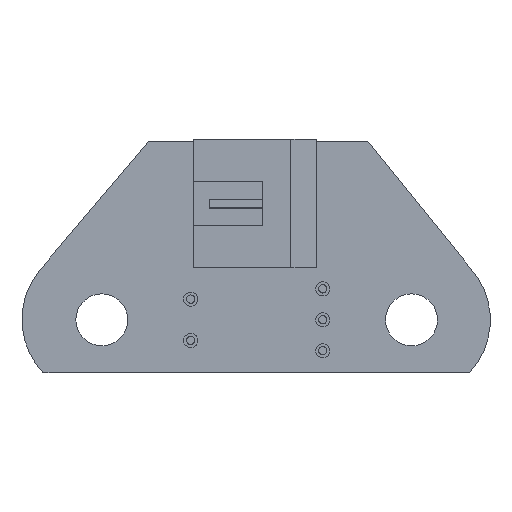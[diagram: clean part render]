
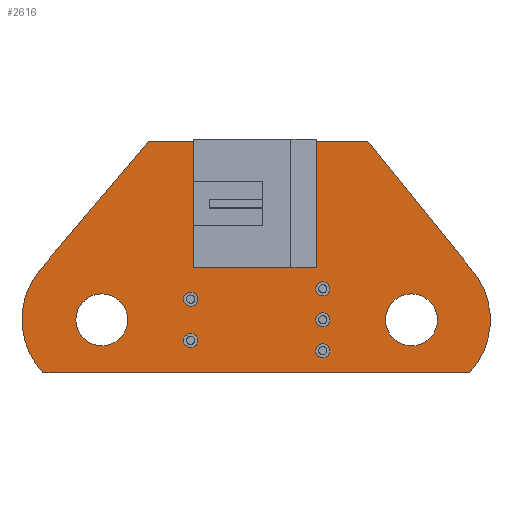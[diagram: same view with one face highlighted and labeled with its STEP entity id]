
A CAD part, top view. The second image highlights one B-rep face of the part: STEP entity #2616.
In plain terms, the highlighted planar face has unit normal (0, 0, 1).
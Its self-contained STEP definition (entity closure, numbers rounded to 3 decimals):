
#67=FACE_BOUND('',#328,.T.);
#68=FACE_BOUND('',#329,.T.);
#69=FACE_BOUND('',#330,.T.);
#70=FACE_BOUND('',#331,.T.);
#71=FACE_BOUND('',#332,.T.);
#72=FACE_BOUND('',#333,.T.);
#73=FACE_BOUND('',#334,.T.);
#74=FACE_BOUND('',#335,.T.);
#75=FACE_BOUND('',#336,.T.);
#76=FACE_BOUND('',#337,.T.);
#85=CIRCLE('',#2811,4.776);
#97=CIRCLE('',#2825,4.772);
#98=CIRCLE('',#2826,1.6);
#99=CIRCLE('',#2827,0.435);
#100=CIRCLE('',#2828,0.435);
#101=CIRCLE('',#2829,0.435);
#102=CIRCLE('',#2830,0.435);
#103=CIRCLE('',#2831,1.6);
#104=CIRCLE('',#2832,0.435);
#105=CIRCLE('',#2833,0.375);
#106=CIRCLE('',#2834,0.375);
#107=CIRCLE('',#2835,0.375);
#169=FACE_OUTER_BOUND('',#327,.T.);
#327=EDGE_LOOP('',(#1767,#1768,#1769,#1770,#1771,#1772));
#328=EDGE_LOOP('',(#1773));
#329=EDGE_LOOP('',(#1774));
#330=EDGE_LOOP('',(#1775));
#331=EDGE_LOOP('',(#1776));
#332=EDGE_LOOP('',(#1777));
#333=EDGE_LOOP('',(#1778));
#334=EDGE_LOOP('',(#1779));
#335=EDGE_LOOP('',(#1780));
#336=EDGE_LOOP('',(#1781));
#337=EDGE_LOOP('',(#1782));
#489=LINE('',#3776,#802);
#493=LINE('',#3784,#806);
#498=LINE('',#3820,#811);
#499=LINE('',#3823,#812);
#802=VECTOR('',#3029,1.);
#806=VECTOR('',#3035,1.);
#811=VECTOR('',#3072,1.);
#812=VECTOR('',#3075,1.);
#1115=VERTEX_POINT('',#3773);
#1116=VERTEX_POINT('',#3775);
#1119=VERTEX_POINT('',#3782);
#1121=VERTEX_POINT('',#3788);
#1134=VERTEX_POINT('',#3819);
#1135=VERTEX_POINT('',#3821);
#1136=VERTEX_POINT('',#3824);
#1137=VERTEX_POINT('',#3826);
#1138=VERTEX_POINT('',#3828);
#1139=VERTEX_POINT('',#3830);
#1140=VERTEX_POINT('',#3832);
#1141=VERTEX_POINT('',#3834);
#1142=VERTEX_POINT('',#3836);
#1143=VERTEX_POINT('',#3838);
#1144=VERTEX_POINT('',#3840);
#1145=VERTEX_POINT('',#3842);
#1365=EDGE_CURVE('',#1115,#1116,#489,.T.);
#1369=EDGE_CURVE('',#1119,#1115,#493,.T.);
#1373=EDGE_CURVE('',#1121,#1116,#85,.T.);
#1387=EDGE_CURVE('',#1134,#1119,#498,.T.);
#1388=EDGE_CURVE('',#1134,#1135,#97,.T.);
#1389=EDGE_CURVE('',#1121,#1135,#499,.T.);
#1390=EDGE_CURVE('',#1136,#1136,#98,.T.);
#1391=EDGE_CURVE('',#1137,#1137,#99,.T.);
#1392=EDGE_CURVE('',#1138,#1138,#100,.T.);
#1393=EDGE_CURVE('',#1139,#1139,#101,.T.);
#1394=EDGE_CURVE('',#1140,#1140,#102,.T.);
#1395=EDGE_CURVE('',#1141,#1141,#103,.T.);
#1396=EDGE_CURVE('',#1142,#1142,#104,.T.);
#1397=EDGE_CURVE('',#1143,#1143,#105,.T.);
#1398=EDGE_CURVE('',#1144,#1144,#106,.T.);
#1399=EDGE_CURVE('',#1145,#1145,#107,.T.);
#1767=ORIENTED_EDGE('',*,*,#1365,.F.);
#1768=ORIENTED_EDGE('',*,*,#1369,.F.);
#1769=ORIENTED_EDGE('',*,*,#1387,.F.);
#1770=ORIENTED_EDGE('',*,*,#1388,.T.);
#1771=ORIENTED_EDGE('',*,*,#1389,.F.);
#1772=ORIENTED_EDGE('',*,*,#1373,.T.);
#1773=ORIENTED_EDGE('',*,*,#1390,.F.);
#1774=ORIENTED_EDGE('',*,*,#1391,.F.);
#1775=ORIENTED_EDGE('',*,*,#1392,.F.);
#1776=ORIENTED_EDGE('',*,*,#1393,.F.);
#1777=ORIENTED_EDGE('',*,*,#1394,.F.);
#1778=ORIENTED_EDGE('',*,*,#1395,.F.);
#1779=ORIENTED_EDGE('',*,*,#1396,.F.);
#1780=ORIENTED_EDGE('',*,*,#1397,.F.);
#1781=ORIENTED_EDGE('',*,*,#1398,.F.);
#1782=ORIENTED_EDGE('',*,*,#1399,.F.);
#2492=PLANE('',#2824);
#2616=ADVANCED_FACE('',(#169,#67,#68,#69,#70,#71,#72,#73,#74,#75,#76),#2492,
 .F.);
#2811=AXIS2_PLACEMENT_3D('',#3791,#3042,#3043);
#2824=AXIS2_PLACEMENT_3D('',#3818,#3070,#3071);
#2825=AXIS2_PLACEMENT_3D('',#3822,#3073,#3074);
#2826=AXIS2_PLACEMENT_3D('',#3825,#3076,#3077);
#2827=AXIS2_PLACEMENT_3D('',#3827,#3078,#3079);
#2828=AXIS2_PLACEMENT_3D('',#3829,#3080,#3081);
#2829=AXIS2_PLACEMENT_3D('',#3831,#3082,#3083);
#2830=AXIS2_PLACEMENT_3D('',#3833,#3084,#3085);
#2831=AXIS2_PLACEMENT_3D('',#3835,#3086,#3087);
#2832=AXIS2_PLACEMENT_3D('',#3837,#3088,#3089);
#2833=AXIS2_PLACEMENT_3D('',#3839,#3090,#3091);
#2834=AXIS2_PLACEMENT_3D('',#3841,#3092,#3093);
#2835=AXIS2_PLACEMENT_3D('',#3843,#3094,#3095);
#3029=DIRECTION('',(0.628,-0.778,0.));
#3035=DIRECTION('',(1.,0.,0.));
#3042=DIRECTION('center_axis',(0.,0.,1.));
#3043=DIRECTION('ref_axis',(1.,0.,0.));
#3070=DIRECTION('center_axis',(0.,0.,-1.));
#3071=DIRECTION('ref_axis',(-1.,0.,0.));
#3072=DIRECTION('',(0.645,0.764,0.));
#3073=DIRECTION('center_axis',(0.,0.,1.));
#3074=DIRECTION('ref_axis',(1.,0.,0.));
#3075=DIRECTION('',(-1.,0.,0.));
#3076=DIRECTION('center_axis',(0.,0.,1.));
#3077=DIRECTION('ref_axis',(1.,0.,0.));
#3078=DIRECTION('center_axis',(0.,0.,1.));
#3079=DIRECTION('ref_axis',(1.,0.,0.));
#3080=DIRECTION('center_axis',(0.,0.,1.));
#3081=DIRECTION('ref_axis',(1.,0.,0.));
#3082=DIRECTION('center_axis',(0.,0.,1.));
#3083=DIRECTION('ref_axis',(1.,0.,0.));
#3084=DIRECTION('center_axis',(0.,0.,1.));
#3085=DIRECTION('ref_axis',(1.,0.,0.));
#3086=DIRECTION('center_axis',(0.,0.,1.));
#3087=DIRECTION('ref_axis',(1.,0.,0.));
#3088=DIRECTION('center_axis',(0.,0.,1.));
#3089=DIRECTION('ref_axis',(1.,0.,0.));
#3090=DIRECTION('center_axis',(0.,0.,1.));
#3091=DIRECTION('ref_axis',(1.,0.,0.));
#3092=DIRECTION('center_axis',(0.,0.,1.));
#3093=DIRECTION('ref_axis',(1.,0.,0.));
#3094=DIRECTION('center_axis',(0.,0.,1.));
#3095=DIRECTION('ref_axis',(1.,0.,0.));
#3773=CARTESIAN_POINT('',(119.25,-54.5,1.6));
#3775=CARTESIAN_POINT('',(125.5,-62.25,1.6));
#3776=CARTESIAN_POINT('',(119.25,-54.5,1.6));
#3782=CARTESIAN_POINT('',(105.75,-54.5,1.6));
#3784=CARTESIAN_POINT('',(105.75,-54.5,1.6));
#3788=CARTESIAN_POINT('',(125.5,-68.75,1.6));
#3791=CARTESIAN_POINT('Origin',(122.,-65.5,1.6));
#3818=CARTESIAN_POINT('Origin',(112.383,-62.711,1.6));
#3819=CARTESIAN_POINT('',(99.,-62.5,1.6));
#3820=CARTESIAN_POINT('',(99.,-62.5,1.6));
#3821=CARTESIAN_POINT('',(99.25,-68.75,1.6));
#3822=CARTESIAN_POINT('Origin',(102.726,-65.481,1.6));
#3823=CARTESIAN_POINT('',(125.5,-68.75,1.6));
#3824=CARTESIAN_POINT('',(120.33,-65.5,1.6));
#3825=CARTESIAN_POINT('Origin',(121.93,-65.5,1.6));
#3826=CARTESIAN_POINT('',(116.03,-67.405,1.6));
#3827=CARTESIAN_POINT('Origin',(116.465,-67.405,1.6));
#3828=CARTESIAN_POINT('',(116.03,-65.5,1.6));
#3829=CARTESIAN_POINT('Origin',(116.465,-65.5,1.6));
#3830=CARTESIAN_POINT('',(116.03,-63.595,1.6));
#3831=CARTESIAN_POINT('Origin',(116.465,-63.595,1.6));
#3832=CARTESIAN_POINT('',(107.9,-66.77,1.6));
#3833=CARTESIAN_POINT('Origin',(108.335,-66.77,1.6));
#3834=CARTESIAN_POINT('',(101.27,-65.5,1.6));
#3835=CARTESIAN_POINT('Origin',(102.87,-65.5,1.6));
#3836=CARTESIAN_POINT('',(107.9,-64.23,1.6));
#3837=CARTESIAN_POINT('Origin',(108.335,-64.23,1.6));
#3838=CARTESIAN_POINT('',(114.325,-60.5,1.6));
#3839=CARTESIAN_POINT('Origin',(114.7,-60.5,1.6));
#3840=CARTESIAN_POINT('',(114.325,-58.5,1.6));
#3841=CARTESIAN_POINT('Origin',(114.7,-58.5,1.6));
#3842=CARTESIAN_POINT('',(114.325,-56.5,1.6));
#3843=CARTESIAN_POINT('Origin',(114.7,-56.5,1.6));
